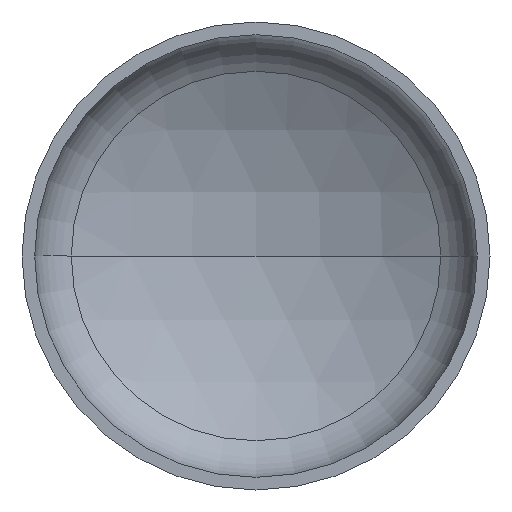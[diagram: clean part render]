
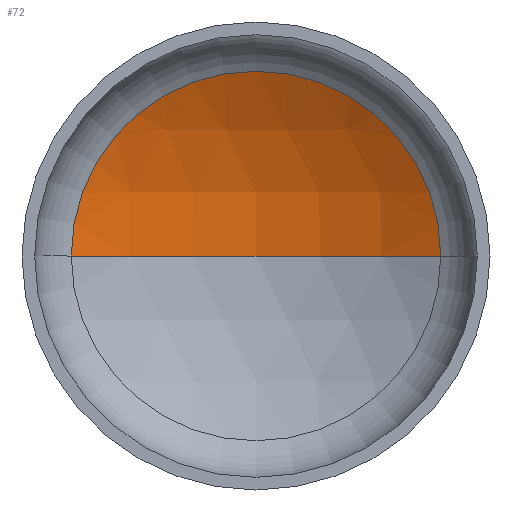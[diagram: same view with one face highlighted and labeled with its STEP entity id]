
A CAD part, front view. The second image highlights one B-rep face of the part: STEP entity #72.
In plain terms, the highlighted spherical face has radius 2720 mm.
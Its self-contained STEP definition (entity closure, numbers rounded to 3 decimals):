
#6 = CARTESIAN_POINT ( 'NONE',  ( 0., -1809.224, 0. ) ) ;
#16 = EDGE_LOOP ( 'NONE', ( #45, #325, #34 ) ) ;
#34 = ORIENTED_EDGE ( 'NONE', *, *, #230, .T. ) ;
#39 = AXIS2_PLACEMENT_3D ( 'NONE', #377, #396, #261 ) ;
#45 = ORIENTED_EDGE ( 'NONE', *, *, #187, .F. ) ;
#50 = AXIS2_PLACEMENT_3D ( 'NONE', #228, #223, #218 ) ;
#52 = AXIS2_PLACEMENT_3D ( 'NONE', #6, #391, #152 ) ;
#54 = VERTEX_POINT ( 'NONE', #273 ) ;
#67 = AXIS2_PLACEMENT_3D ( 'NONE', #295, #297, #258 ) ;
#72 = ADVANCED_FACE ( 'NONE', ( #116 ), #125, .F. ) ;
#90 = VERTEX_POINT ( 'NONE', #348 ) ;
#91 = VERTEX_POINT ( 'NONE', #335 ) ;
#116 = FACE_OUTER_BOUND ( 'NONE', #16, .T. ) ;
#125 = SPHERICAL_SURFACE ( 'NONE', #67, 2720. ) ;
#152 = DIRECTION ( 'NONE',  ( -1., 0., 0. ) ) ;
#165 = CIRCLE ( 'NONE', #39, 1342.032 ) ;
#175 = CIRCLE ( 'NONE', #50, 2720. ) ;
#187 = EDGE_CURVE ( 'NONE', #90, #54, #175, .T. ) ;
#202 = EDGE_CURVE ( 'NONE', #90, #91, #232, .T. ) ;
#218 = DIRECTION ( 'NONE',  ( 1., 0., 0. ) ) ;
#223 = DIRECTION ( 'NONE',  ( 0., 0., 1. ) ) ;
#228 = CARTESIAN_POINT ( 'NONE',  ( 0., -1809.224, 0. ) ) ;
#230 = EDGE_CURVE ( 'NONE', #91, #54, #165, .T. ) ;
#232 = CIRCLE ( 'NONE', #52, 2720. ) ;
#258 = DIRECTION ( 'NONE',  ( -1., 0., 0. ) ) ;
#261 = DIRECTION ( 'NONE',  ( 1., 0., 0. ) ) ;
#273 = CARTESIAN_POINT ( 'NONE',  ( -1342.032, 556.648, 0. ) ) ;
#295 = CARTESIAN_POINT ( 'NONE',  ( 0., -1809.224, 0. ) ) ;
#297 = DIRECTION ( 'NONE',  ( 0., 0., -1. ) ) ;
#325 = ORIENTED_EDGE ( 'NONE', *, *, #202, .T. ) ;
#335 = CARTESIAN_POINT ( 'NONE',  ( 1342.032, 556.648, 0. ) ) ;
#348 = CARTESIAN_POINT ( 'NONE',  ( 0., 910.776, 0. ) ) ;
#377 = CARTESIAN_POINT ( 'NONE',  ( 0., 556.648, 0. ) ) ;
#391 = DIRECTION ( 'NONE',  ( 0., 0., -1. ) ) ;
#396 = DIRECTION ( 'NONE',  ( 0., -1., 0. ) ) ;
